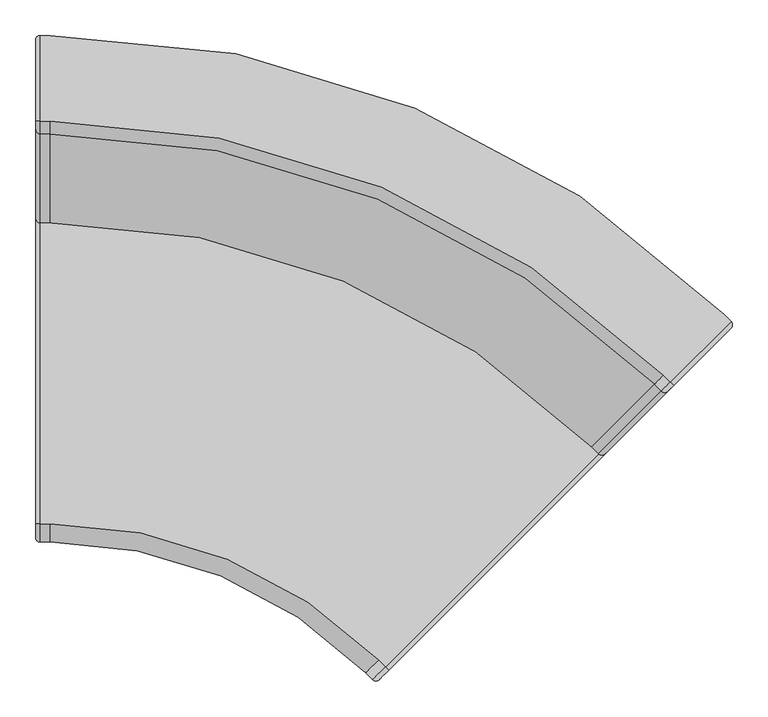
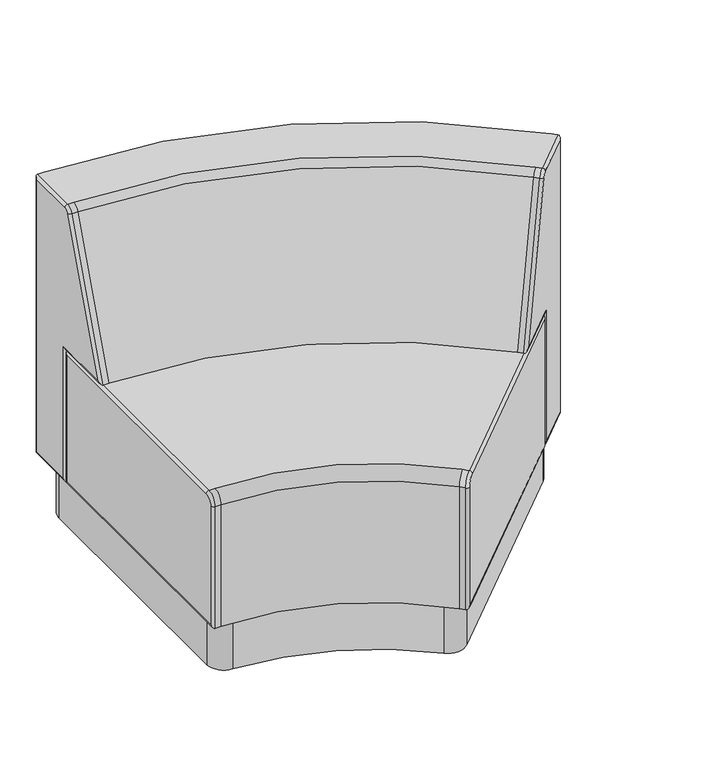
"""IFC4 building model written with IfcOpenShell, lengths in millimetres: furniture geometry, Stance_HC-Rosetta-45_Curve_Inside_Plinth_Base : RMB45-IN-BHP."""

from ifc_helpers import new_model, si_unit, point, frame, frame_2d, origin, origin_with_axes, place, context, project, spatial, polyline, circle_curve, ellipse_curve, trimmed, segment, composite_curve, outline, extrude, source, transform, mapped, element, save
from ifc_brep_helpers import plane_surface, cylinder_surface, revolved_surface, advanced_brep


def furniture_d77f1292(model_context):
    return source(origin(), model_context, "Body", "SolidModel", [
        extrude(outline(composite_curve([segment(trimmed(circle_curve(frame_2d((895.3141151, -406.5636273)), 39.6875), [point((922.4922983, -377.6422855))], [point((923.3774154, -434.6269277))], False, "CARTESIAN"), True, "CONTINUOUS"), segment(polyline([(923.3774154, -434.6269277), (504.8361601, -853.168183)]), True, "CONTINUOUS"), segment(trimmed(circle_curve(frame_2d((476.7728597, -825.1048826)), 39.6875), [point((504.8361601, -853.168183))], [point((450.3788925, -854.7436436))], False, "CARTESIAN"), True, "CONTINUOUS"), segment(trimmed(circle_curve(frame_2d((20.225, -1337.7793431)), 646.8043431), [point((450.3788925, -854.7436436))], [point((57.6180843, -692.0567901))], True, "CARTESIAN"), True, "CONTINUOUS"), segment(trimmed(circle_curve(frame_2d((59.9125, -652.435668)), 39.6875), [point((57.6180843, -692.0567901))], [point((20.225, -652.435668))], False, "CARTESIAN"), True, "CONTINUOUS"), segment(polyline([(20.225, -652.435668), (20.225, -60.5289483)]), True, "CONTINUOUS"), segment(trimmed(circle_curve(frame_2d((59.9125, -60.5289483)), 39.6875), [point((20.225, -60.5289483))], [point((61.1450992, -20.8605937))], False, "CARTESIAN"), True, "CONTINUOUS"), segment(trimmed(circle_curve(frame_2d((20.225, -1337.7793431)), 1317.5543431), [point((61.1450992, -20.8605937))], [point((922.4922983, -377.6422855))], False, "CARTESIAN"), True, "CONTINUOUS")], self_intersect=False)), frame((0.0, 0.0, 6.3627), z_axis=(0.0, 0.0, 1.0), x_axis=(1.0, 0.0, 0.0)), (0.0, 0.0, 1.0), 128.51892),
        advanced_brep(
        [(880.8654121, -477.138931, 457.2), (20.225, -120.65, 457.2), (6.35, -120.65, 457.2), (6.35, -685.7999758, 457.2), (20.225, -685.7999758, 457.2), (481.2440318, -876.7603113, 457.2), (491.0551384, -886.5714179, 457.2), (890.6765187, -486.9500376, 457.2), (880.8654121, -477.138931, 134.88162), (20.225, -120.65, 134.88162), (890.6765187, -486.9500376, 134.88162), (473.0946262, -904.5319301, 134.88162), (463.2835196, -894.7208235, 134.88162), (20.225, -711.1999758, 134.88162), (6.35, -711.1999758, 134.88162), (6.35, -120.65, 134.88162), (463.2835196, -894.7208235, 431.8), (20.225, -711.1999758, 431.8), (0.0, -127.0, 141.23162), (0.0, -127.0, 450.85), (0.0, -704.8499758, 141.23162), (6.35, -711.1999758, 431.8), (0.0, -704.8499758, 431.8), (0.0, -685.7999758, 450.85), (482.0748823, -904.5319301, 431.8), (495.5452665, -891.0615459, 450.85), (473.0946262, -904.5319301, 431.8), (482.0748823, -904.5319301, 141.23162), (890.6765187, -495.9302937, 141.23162), (890.6765187, -495.9302937, 450.85)],
        [
            (0, 1, circle_curve(frame((20.225, -1337.7793431, 457.2), z_axis=(0.0, 0.0, 1.0), x_axis=(0.0, 1.0, 0.0)), 1217.1293431)),
            (1, 2),
            (2, 3),
            (3, 4),
            (4, 5, circle_curve(frame((20.225, -1337.7793431, 457.2), z_axis=(0.0, 0.0, -1.0), x_axis=(0.0, 1.0, 0.0)), 651.9793673)),
            (5, 6),
            (6, 7),
            (7, 0),
            (0, 8),
            (8, 9, circle_curve(frame((20.225, -1337.7793431, 134.88162), z_axis=(0.0, 0.0, 1.0), x_axis=(0.0, 1.0, 0.0)), 1217.1293431)),
            (9, 1),
            (8, 10),
            (10, 11),
            (11, 12),
            (12, 13, circle_curve(frame((20.225, -1337.7793431, 134.88162), z_axis=(0.0, 0.0, 1.0), x_axis=(0.0, 1.0, 0.0)), 626.5793673)),
            (13, 14),
            (14, 15),
            (15, 9),
            (12, 16),
            (16, 17, circle_curve(frame((20.225, -1337.7793431, 431.8), z_axis=(0.0, 0.0, 1.0), x_axis=(0.0, 1.0, 0.0)), 626.5793673)),
            (17, 13),
            (4, 17, circle_curve(frame((20.225, -685.7999758, 431.8), z_axis=(1.0, 0.0, 0.0), x_axis=(0.0, 1.0, 0.0)), 25.4)),
            (16, 5, circle_curve(frame((481.2440318, -876.7603113, 431.8), z_axis=(-0.7071067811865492, 0.7071067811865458, 0.0), x_axis=(0.7071067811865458, 0.7071067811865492, 0.0)), 25.4)),
            (15, 2),
            (15, 18, ellipse_curve(frame((6.35, -127.0, 141.23162), z_axis=(0.0, 0.7071067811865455, 0.7071067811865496), x_axis=(0.0, -0.7071067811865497, 0.7071067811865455)), 8.9802561, 6.35)),
            (18, 19),
            (19, 2, ellipse_curve(frame((6.35, -127.0, 450.85), z_axis=(0.0, 0.7071067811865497, -0.7071067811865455), x_axis=(0.0, 0.7071067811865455, 0.7071067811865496)), 8.9802561, 6.35)),
            (14, 20, ellipse_curve(frame((6.35, -704.8499758, 141.23162), z_axis=(0.0, 0.7071067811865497, -0.7071067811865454), x_axis=(0.0, 0.7071067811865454, 0.7071067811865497)), 8.9802561, 6.35)),
            (20, 18),
            (17, 21),
            (21, 14),
            (21, 22, circle_curve(frame((6.35, -704.8499758, 431.8), z_axis=(0.0, 0.0, -1.0), x_axis=(0.0, -1.0, 0.0)), 6.35)),
            (22, 20),
            (3, 21, circle_curve(frame((6.35, -685.7999758, 431.8), z_axis=(1.0, 0.0, 0.0), x_axis=(0.0, -1.0, 0.0)), 25.4)),
            (3, 23, circle_curve(frame((6.35, -685.7999758, 450.85), z_axis=(0.0, -1.0, 0.0), x_axis=(0.0, 0.0, 1.0)), 6.35)),
            (23, 22, circle_curve(frame((0.0, -685.7999758, 431.8), z_axis=(1.0, 0.0, 0.0), x_axis=(0.0, -1.0, 0.0)), 19.05)),
            (19, 23),
            (24, 25, circle_curve(frame((495.5452665, -891.0615459, 431.8), z_axis=(-0.7071067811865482, 0.7071067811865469, 0.0), x_axis=(0.0, 0.0, 1.0)), 19.05)),
            (25, 6, circle_curve(frame((491.0551384, -886.5714179, 450.85), z_axis=(-0.7071067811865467, -0.7071067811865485, 0.0), x_axis=(0.0, 0.0, -1.0)), 6.35)),
            (6, 26, circle_curve(frame((491.0551384, -886.5714179, 431.8), z_axis=(0.7071067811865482, -0.7071067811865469, 0.0), x_axis=(0.0, 0.0, 1.0)), 25.4)),
            (26, 24, circle_curve(frame((477.5847542, -900.041802, 431.8), z_axis=(0.0, 0.0, 1.0), x_axis=(0.7071067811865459, 0.7071067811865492, 0.0)), 6.35)),
            (16, 26),
            (26, 11),
            (11, 27, ellipse_curve(frame((477.5847542, -900.041802, 141.23162), z_axis=(-0.5000000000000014, -0.5000000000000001, 0.7071067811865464), x_axis=(0.4999999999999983, 0.5000000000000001, 0.7071067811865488)), 8.9802561, 6.35)),
            (27, 24),
            (10, 28, ellipse_curve(frame((886.1863906, -491.4401657, 141.23162), z_axis=(-0.4999999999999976, -0.5000000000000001, -0.707106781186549), x_axis=(-0.5000000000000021, -0.5000000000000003, 0.7071067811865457)), 8.9802561, 6.35)),
            (28, 27),
            (10, 7),
            (7, 29, ellipse_curve(frame((886.1863906, -491.4401657, 450.85), z_axis=(0.5000000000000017, 0.5000000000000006, -0.707106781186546), x_axis=(-0.4999999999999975, -0.5000000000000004, -0.7071067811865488)), 8.9802561, 6.35)),
            (29, 28),
            (25, 29),
        ],
        [
            plane_surface(frame((20.225, -1337.7793431, 457.2), z_axis=(0.0, 0.0, 1.0), x_axis=(0.0, 1.0, 0.0))),
            cylinder_surface(frame((20.225, -1337.7793431, 618.9648354), z_axis=(0.0, 0.0, -1.0), x_axis=(0.0, 1.0, 0.0)), 1217.1293431),
            plane_surface(frame((20.225, -1337.7793431, 134.88162), z_axis=(0.0, 0.0, -1.0), x_axis=(0.0, 1.0, 0.0))),
            revolved_surface(polyline([(20.225, -711.1999758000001, 134.88162), (20.225, -711.1999758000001, 431.8)]), (20.225, -1337.7793431, 618.9648354), (0.0, 0.0, -1.0)),
            revolved_surface(trimmed(ellipse_curve(frame((20.225, -685.7999758, 431.8), z_axis=(-1.0, 0.0, 0.0), x_axis=(0.0, 1.0, 0.0)), 25.4, 25.4), [point((20.225, -711.1999758, 431.8))], [point((20.225, -685.7999758, 457.2))], True, "CARTESIAN"), (20.225, -1337.7793431, 618.9648354), (0.0, 0.0, -1.0)),
            plane_surface(frame((20.225, -120.65, 457.2), z_axis=(0.0, 1.0, 0.0), x_axis=(0.0, 0.0, -1.0))),
            cylinder_surface(frame((6.35, -127.0, 457.2), z_axis=(0.0, 0.0, 1.0), x_axis=(0.0, 1.0, 0.0)), 6.35),
            cylinder_surface(frame((6.35, -120.65, 141.23162), z_axis=(0.0, 1.0, 0.0), x_axis=(0.0, 0.0, -1.0)), 6.35),
            plane_surface(frame((20.225, -711.1999758, 134.88162), z_axis=(0.0, -1.0, 0.0), x_axis=(0.0, 0.0, 1.0))),
            cylinder_surface(frame((6.35, -704.8499758, 134.88162), z_axis=(0.0, 0.0, -1.0), x_axis=(0.0, -1.0, 0.0)), 6.35),
            cylinder_surface(frame((0.0, -685.7999758, 431.8), z_axis=(-1.0, 0.0, 0.0), x_axis=(0.0, -1.0, 0.0)), 25.4),
            revolved_surface(trimmed(ellipse_curve(frame((6.35, -704.8499758, 431.8), z_axis=(0.0, 0.0, -1.0), x_axis=(0.0, -1.0, 0.0)), 6.35, 6.35), [point((6.35, -711.1999758, 431.8))], [point((0.0, -704.8499758, 431.8))], True, "CARTESIAN"), (0.0, -685.7999758, 431.8), (-1.0, 0.0, 0.0)),
            cylinder_surface(frame((6.35, -685.7999758, 450.85), z_axis=(0.0, -1.0, 0.0), x_axis=(0.0, 0.0, 1.0)), 6.35),
            plane_surface(frame((0.0, -685.7999758, 450.85), z_axis=(-1.0, 0.0, 0.0), x_axis=(0.0, 1.0, 0.0))),
            revolved_surface(trimmed(ellipse_curve(frame((491.0551384, -886.5714179, 450.85), z_axis=(0.7071067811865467, 0.7071067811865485, 0.0), x_axis=(0.0, 0.0, -1.0)), 6.35, 6.35), [point((491.0551384, -886.5714179, 457.2))], [point((495.5452665, -891.0615459, 450.85))], True, "CARTESIAN"), (481.2440318, -876.7603113, 431.8), (0.7071067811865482, -0.7071067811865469, 0.0)),
            cylinder_surface(frame((481.2440318, -876.7603113, 431.8), z_axis=(0.7071067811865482, -0.7071067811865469, 0.0), x_axis=(0.0, 0.0, 1.0)), 25.4),
            cylinder_surface(frame((477.5847542, -900.041802, 431.8), z_axis=(0.0, 0.0, 1.0), x_axis=(0.7071067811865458, 0.7071067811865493, 0.0)), 6.35),
            plane_surface(frame((463.2835196, -894.7208235, 431.8), z_axis=(-0.7071067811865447, -0.7071067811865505, 0.0), x_axis=(0.0, 0.0, -1.0))),
            cylinder_surface(frame((473.0946262, -904.5319301, 141.23162), z_axis=(-0.7071067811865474, -0.7071067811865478, 0.0), x_axis=(0.0, 0.0, 1.0)), 6.35),
            cylinder_surface(frame((886.1863906, -491.4401657, 134.88162), z_axis=(0.0, 0.0, -1.0), x_axis=(-0.7071067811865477, -0.7071067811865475, 0.0)), 6.35),
            plane_surface(frame((880.8654121, -477.138931, 134.88162), z_axis=(0.7071067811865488, 0.7071067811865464, 0.0), x_axis=(0.0, 0.0, 1.0))),
            cylinder_surface(frame((890.6765187, -486.9500376, 450.85), z_axis=(0.7071067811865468, 0.7071067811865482, 0.0), x_axis=(0.0, 0.0, -1.0)), 6.35),
            plane_surface(frame((890.6765187, -495.9302937, 450.85), z_axis=(0.707106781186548, -0.707106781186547, 0.0), x_axis=(-0.707106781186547, -0.707106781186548, 0.0))),
        ],
        [
            (0, [[1, 2, 3, 4, 5, 6, 7, 8]]),
            (1, [[-1, 9, 10, 11]]),
            (2, [[-10, 12, 13, 14, 15, 16, 17, 18]]),
            (3, [[-15, 19, 20, 21]]),
            (4, [[-5, 22, -20, 23]]),
            (5, [[-2, -11, -18, 24]]),
            (6, [[-24, 25, 26, 27]]),
            (7, [[-25, -17, 28, 29]]),
            (8, [[-16, -21, 30, 31]]),
            (9, [[-28, -31, 32, 33]]),
            (10, [[-30, -22, -4, 34]]),
            (11, [[-32, -34, 35, 36]]),
            (12, [[-27, 37, -35, -3]]),
            (13, [[-26, -29, -33, -36, -37]]),
            (14, [[38, 39, 40, 41]]),
            (15, [[-40, -6, -23, 42]]),
            (16, [[-41, 43, 44, 45]]),
            (17, [[-42, -19, -14, -43]]),
            (18, [[-44, -13, 46, 47]]),
            (19, [[-46, 48, 49, 50]]),
            (20, [[-12, -9, -8, -48]]),
            (21, [[-39, 51, -49, -7]]),
            (22, [[-38, -45, -47, -50, -51]]),
        ],
    ),
        advanced_brep(
        [(966.1778452, -391.8264979, 812.8), (20.225, 0.0, 812.8), (6.35, 0.0, 812.8), (6.35, -120.3764333, 812.8), (20.225, -120.3764333, 812.8), (881.058853, -476.9454901, 812.8), (890.8699596, -486.7565967, 812.8), (975.9889518, -401.6376045, 812.8), (966.1778452, -391.8264979, 134.88162), (20.225, 0.0, 134.88162), (975.9889518, -401.6376045, 134.88162), (890.6765187, -486.9500376, 134.88162), (880.8654121, -477.138931, 134.88162), (20.225, -120.65, 134.88162), (6.35, -120.65, 134.88162), (6.35, 0.0, 134.88162), (880.8654121, -477.138931, 457.2), (20.225, -120.65, 457.2), (890.6765187, -486.9500376, 457.2), (789.9186091, -587.7079471, 457.2), (780.1075025, -577.8968406, 457.2), (20.225, -263.1432022, 457.2), (6.35, -263.1432022, 457.2), (6.35, -120.65, 457.2), (868.4008324, -489.6035108, 800.2654837), (20.225, -138.2775777, 800.2654837), (0.0, -6.35, 141.23162), (0.0, -6.35, 806.45), (0.0, -114.3, 141.23162), (0.0, -114.3, 463.55), (0.0, -254.0744624, 463.55), (6.35, -138.2775777, 800.2654837), (0.0, -132.3105296, 798.0936558), (0.0, -120.3764333, 806.45), (886.9214072, -499.6854052, 798.0936558), (895.3600876, -491.2467248, 806.45), (878.2119389, -499.4146173, 800.2654837), (800.8213046, -585.7855078, 463.55), (899.6567748, -486.9500376, 463.55), (899.6567748, -486.9500376, 141.23162), (975.9889518, -410.6178606, 141.23162), (975.9889518, -410.6178606, 806.45)],
        [
            (0, 1, circle_curve(frame((20.225, -1337.7793431, 812.8), z_axis=(0.0, 0.0, 1.0), x_axis=(0.0, 1.0, 0.0)), 1337.7793431)),
            (1, 2),
            (2, 3),
            (3, 4),
            (4, 5, circle_curve(frame((20.225, -1337.7793431, 812.8), z_axis=(0.0, 0.0, -1.0), x_axis=(0.0, 1.0, 0.0)), 1217.4029098)),
            (5, 6),
            (6, 7),
            (7, 0),
            (0, 8),
            (8, 9, circle_curve(frame((20.225, -1337.7793431, 134.88162), z_axis=(0.0, 0.0, 1.0), x_axis=(0.0, 1.0, 0.0)), 1337.7793431)),
            (9, 1),
            (8, 10),
            (10, 11),
            (11, 12),
            (12, 13, circle_curve(frame((20.225, -1337.7793431, 134.88162), z_axis=(0.0, 0.0, 1.0), x_axis=(0.0, 1.0, 0.0)), 1217.1293431)),
            (13, 14),
            (14, 15),
            (15, 9),
            (12, 16),
            (16, 17, circle_curve(frame((20.225, -1337.7793431, 457.2), z_axis=(0.0, 0.0, 1.0), x_axis=(0.0, 1.0, 0.0)), 1217.1293431)),
            (17, 13),
            (16, 18),
            (18, 19),
            (19, 20),
            (20, 21, circle_curve(frame((20.225, -1337.7793431, 457.2), z_axis=(0.0, 0.0, 1.0), x_axis=(0.0, 1.0, 0.0)), 1074.6361409)),
            (21, 22),
            (22, 23),
            (23, 17),
            (20, 24),
            (24, 25, circle_curve(frame((20.225, -1337.7793431, 800.2654837), z_axis=(0.0, 0.0, 1.0), x_axis=(0.0, 1.0, 0.0)), 1199.5017654)),
            (25, 21),
            (4, 25, circle_curve(frame((20.225, -120.3764333, 793.75), z_axis=(1.0, 0.0, 0.0), x_axis=(0.0, 1.0, 0.0)), 19.05)),
            (24, 5, circle_curve(frame((881.058853, -476.9454901, 793.75), z_axis=(-0.7071067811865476, 0.7071067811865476, 0.0), x_axis=(0.7071067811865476, 0.7071067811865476, 0.0)), 19.05)),
            (15, 2),
            (15, 26, ellipse_curve(frame((6.35, -6.35, 141.23162), z_axis=(0.0, 0.7071067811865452, 0.7071067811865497), x_axis=(0.0, -0.7071067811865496, 0.7071067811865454)), 8.9802561, 6.35)),
            (26, 27),
            (27, 2, ellipse_curve(frame((6.35, -6.35, 806.45), z_axis=(0.0, 0.7071067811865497, -0.7071067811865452), x_axis=(0.0, 0.7071067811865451, 0.7071067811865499)), 8.9802561, 6.35)),
            (14, 28, ellipse_curve(frame((6.35, -114.3, 141.23162), z_axis=(0.0, 0.7071067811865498, -0.7071067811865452), x_axis=(0.0, 0.7071067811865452, 0.7071067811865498)), 8.9802561, 6.35)),
            (28, 26),
            (23, 14),
            (23, 29, ellipse_curve(frame((6.35, -114.3, 463.55), z_axis=(0.0, 0.7071067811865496, -0.7071067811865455), x_axis=(0.0, -0.7071067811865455, -0.7071067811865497)), 8.9802561, 6.35)),
            (29, 28),
            (22, 30, ellipse_curve(frame((6.35, -254.0744624, 463.55), z_axis=(0.0, 0.5735764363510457, -0.8191520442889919), x_axis=(0.0, 0.8191520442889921, 0.5735764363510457)), 11.0708872, 6.35)),
            (30, 29),
            (25, 31),
            (31, 22),
            (31, 32, circle_curve(frame((6.35, -132.3105296, 798.0936558), z_axis=(0.0, -0.34202014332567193, -0.9396926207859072), x_axis=(0.0, -0.9396926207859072, 0.34202014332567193)), 6.35)),
            (32, 30),
            (3, 31, circle_curve(frame((6.35, -120.3764333, 793.75), z_axis=(1.0, 0.0, 0.0), x_axis=(0.0, -0.939692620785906, 0.34202014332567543)), 19.05)),
            (3, 33, circle_curve(frame((6.35, -120.3764333, 806.45), z_axis=(0.0, -1.0, 0.0), x_axis=(0.0, 0.0, 1.0)), 6.35)),
            (33, 32, circle_curve(frame((0.0, -120.3764333, 793.75), z_axis=(1.0, 0.0, 0.0), x_axis=(0.0, -0.939692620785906, 0.34202014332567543)), 12.7)),
            (27, 33),
            (34, 35, circle_curve(frame((895.3600876, -491.2467248, 793.75), z_axis=(-0.7071067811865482, 0.7071067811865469, 0.0), x_axis=(0.0, 0.0, 1.0)), 12.7)),
            (35, 6, circle_curve(frame((890.8699596, -486.7565967, 806.45), z_axis=(-0.7071067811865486, -0.7071067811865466, 0.0), x_axis=(0.0, 0.0, -1.0)), 6.35)),
            (6, 36, circle_curve(frame((890.8699596, -486.7565967, 793.75), z_axis=(0.7071067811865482, -0.7071067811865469, 0.0), x_axis=(0.0, 0.0, 1.0)), 19.05)),
            (36, 34, circle_curve(frame((882.4312791, -495.1952771, 798.0936558), z_axis=(0.24184476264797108, 0.2418447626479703, 0.9396926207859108), x_axis=(0.6644630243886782, 0.6644630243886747, -0.3420201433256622)), 6.35)),
            (24, 36),
            (36, 19),
            (19, 37, ellipse_curve(frame((796.3311766, -581.2953797, 463.55), z_axis=(-0.40557978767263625, -0.40557978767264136, 0.8191520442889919), x_axis=(0.5792279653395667, 0.5792279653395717, 0.5735764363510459)), 11.0708872, 6.35)),
            (37, 34),
            (18, 38, ellipse_curve(frame((895.1666467, -482.4599095, 463.55), z_axis=(-0.4999999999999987, -0.5000000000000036, 0.7071067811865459), x_axis=(-0.4999999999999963, -0.5000000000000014, -0.707106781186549)), 8.9802561, 6.35)),
            (38, 37),
            (18, 11),
            (11, 39, ellipse_curve(frame((895.1666467, -482.4599095, 141.23162), z_axis=(-0.5, -0.5000000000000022, 0.707106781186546), x_axis=(0.4999999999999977, 0.5000000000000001, 0.707106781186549)), 8.9802561, 6.35)),
            (39, 38),
            (10, 40, ellipse_curve(frame((971.4988238, -406.1277325, 141.23162), z_axis=(-0.4999999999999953, -0.5000000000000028, -0.7071067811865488), x_axis=(-0.5000000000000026, -0.4999999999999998, 0.7071067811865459)), 8.9802561, 6.35)),
            (40, 39),
            (10, 7),
            (7, 41, ellipse_curve(frame((971.4988238, -406.1277325, 806.45), z_axis=(0.5000000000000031, 0.49999999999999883, -0.7071067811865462), x_axis=(-0.49999999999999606, -0.500000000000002, -0.7071067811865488)), 8.9802561, 6.35)),
            (41, 40),
            (35, 41),
        ],
        [
            plane_surface(frame((20.225, -1337.7793431, 812.8), z_axis=(0.0, 0.0, 1.0), x_axis=(0.0, 1.0, 0.0))),
            cylinder_surface(frame((20.225, -1337.7793431, 618.9648354), z_axis=(0.0, 0.0, -1.0), x_axis=(0.0, 1.0, 0.0)), 1337.7793431),
            plane_surface(frame((20.225, -1337.7793431, 134.88162), z_axis=(0.0, 0.0, -1.0), x_axis=(0.0, 1.0, 0.0))),
            revolved_surface(polyline([(20.225, -120.65000000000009, 134.88162), (20.225, -120.65000000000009, 457.2)]), (20.225, -1337.7793431, 618.9648354), (0.0, 0.0, -1.0)),
            plane_surface(frame((20.225, -1337.7793431, 457.2), z_axis=(0.0, 0.0, -1.0), x_axis=(0.0, 1.0, 0.0))),
            revolved_surface(polyline([(20.225, -263.1432022, 457.2), (20.225, -138.2775777, 800.2654837)]), (20.225, -1337.7793431, 618.9648354), (0.0, 0.0, -1.0)),
            revolved_surface(trimmed(ellipse_curve(frame((20.225, -120.3764333, 793.75), z_axis=(-1.0, 0.0, 0.0), x_axis=(0.0, 1.0, 0.0)), 19.05, 19.05), [point((20.225, -138.2775777, 800.2654837))], [point((20.225, -120.3764333, 812.8))], True, "CARTESIAN"), (20.225, -1337.7793431, 618.9648354), (0.0, 0.0, -1.0)),
            plane_surface(frame((20.225, 0.0, 812.8), z_axis=(0.0, 1.0, 0.0), x_axis=(0.0, 0.0, -1.0))),
            cylinder_surface(frame((6.35, -6.35, 812.8), z_axis=(0.0, 0.0, 1.0), x_axis=(0.0, 1.0, 0.0)), 6.35),
            cylinder_surface(frame((6.35, 0.0, 141.23162), z_axis=(0.0, 1.0, 0.0), x_axis=(0.0, 0.0, -1.0)), 6.35),
            plane_surface(frame((20.225, -120.65, 134.88162), z_axis=(0.0, -1.0, 0.0), x_axis=(0.0, 0.0, 1.0))),
            cylinder_surface(frame((6.35, -114.3, 134.88162), z_axis=(0.0, 0.0, -1.0), x_axis=(0.0, -1.0, 0.0)), 6.35),
            cylinder_surface(frame((6.35, -120.65, 463.55), z_axis=(0.0, 1.0, 0.0), x_axis=(0.0, 0.0, -1.0)), 6.35),
            plane_surface(frame((20.225, -263.1432022, 457.2), z_axis=(0.0, -0.9396926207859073, 0.3420201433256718), x_axis=(0.0, 0.3420201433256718, 0.9396926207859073))),
            cylinder_surface(frame((6.35, -257.1761541, 455.0281721), z_axis=(0.0, -0.34202014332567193, -0.9396926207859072), x_axis=(0.0, -0.9396926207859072, 0.34202014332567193)), 6.35),
            cylinder_surface(frame((0.0, -120.3764333, 793.75), z_axis=(-1.0, 0.0, 0.0), x_axis=(0.0, -0.939692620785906, 0.34202014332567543)), 19.05),
            revolved_surface(trimmed(ellipse_curve(frame((6.35, -132.3105296, 798.0936558), z_axis=(0.0, -0.3420201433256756, -0.9396926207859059), x_axis=(0.0, -0.9396926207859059, 0.3420201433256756)), 6.35, 6.35), [point((6.35, -138.2775777, 800.2654837))], [point((0.0, -132.3105296, 798.0936558))], True, "CARTESIAN"), (0.0, -120.3764333, 793.75), (-1.0, 0.0, 0.0)),
            cylinder_surface(frame((6.35, -120.3764333, 806.45), z_axis=(0.0, -1.0, 0.0), x_axis=(0.0, 0.0, 1.0)), 6.35),
            plane_surface(frame((0.0, -120.3764333, 806.45), z_axis=(-1.0, 0.0, 0.0), x_axis=(0.0, 1.0, 0.0))),
            revolved_surface(trimmed(ellipse_curve(frame((890.8699596, -486.7565967, 806.45), z_axis=(0.7071067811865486, 0.7071067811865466, 0.0), x_axis=(0.0, 0.0, -1.0)), 6.35, 6.35), [point((890.8699596, -486.7565967, 812.8))], [point((895.3600876, -491.2467248, 806.45))], True, "CARTESIAN"), (881.058853, -476.9454901, 793.75), (0.7071067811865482, -0.7071067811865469, 0.0)),
            cylinder_surface(frame((881.058853, -476.9454901, 793.75), z_axis=(0.7071067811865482, -0.7071067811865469, 0.0), x_axis=(0.0, 0.0, 1.0)), 19.05),
            cylinder_surface(frame((882.4312791, -495.1952771, 798.0936558), z_axis=(0.24184476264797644, 0.24184476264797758, 0.9396926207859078), x_axis=(0.6644630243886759, 0.6644630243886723, -0.34202014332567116)), 6.35),
            plane_surface(frame((868.4008324, -489.6035108, 800.2654837), z_axis=(-0.6644630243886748, -0.6644630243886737, 0.3420201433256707), x_axis=(-0.24184476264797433, -0.24184476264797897, -0.9396926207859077))),
            cylinder_surface(frame((789.9186091, -587.7079471, 463.55), z_axis=(-0.7071067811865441, -0.7071067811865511, 0.0), x_axis=(0.0, 0.0, 1.0)), 6.35),
            cylinder_surface(frame((895.1666467, -482.4599095, 457.2), z_axis=(0.0, 0.0, 1.0), x_axis=(0.7071067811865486, 0.7071067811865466, 0.0)), 6.35),
            plane_surface(frame((880.8654121, -477.138931, 457.2), z_axis=(-0.7071067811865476, -0.7071067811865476, 0.0), x_axis=(0.0, 0.0, -1.0))),
            cylinder_surface(frame((890.6765187, -486.9500376, 141.23162), z_axis=(-0.7071067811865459, -0.7071067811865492, 0.0), x_axis=(0.0, 0.0, 1.0)), 6.35),
            cylinder_surface(frame((971.4988238, -406.1277325, 134.88162), z_axis=(0.0, 0.0, -1.0), x_axis=(-0.7071067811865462, -0.7071067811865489, 0.0)), 6.35),
            plane_surface(frame((966.1778452, -391.8264979, 134.88162), z_axis=(0.7071067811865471, 0.7071067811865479, 0.0), x_axis=(0.0, 0.0, 1.0))),
            cylinder_surface(frame((975.9889518, -401.6376045, 806.45), z_axis=(0.7071067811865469, 0.7071067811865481, 0.0), x_axis=(0.0, 0.0, -1.0)), 6.35),
            plane_surface(frame((975.9889518, -410.6178606, 806.45), z_axis=(0.7071067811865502, -0.7071067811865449, 0.0), x_axis=(-0.7071067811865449, -0.7071067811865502, 0.0))),
        ],
        [
            (0, [[1, 2, 3, 4, 5, 6, 7, 8]]),
            (1, [[-1, 9, 10, 11]]),
            (2, [[-10, 12, 13, 14, 15, 16, 17, 18]]),
            (3, [[-15, 19, 20, 21]]),
            (4, [[-20, 22, 23, 24, 25, 26, 27, 28]]),
            (5, [[-25, 29, 30, 31]]),
            (6, [[-5, 32, -30, 33]]),
            (7, [[-2, -11, -18, 34]]),
            (8, [[-34, 35, 36, 37]]),
            (9, [[-35, -17, 38, 39]]),
            (10, [[-16, -21, -28, 40]]),
            (11, [[-38, -40, 41, 42]]),
            (12, [[-41, -27, 43, 44]]),
            (13, [[-26, -31, 45, 46]]),
            (14, [[-43, -46, 47, 48]]),
            (15, [[-45, -32, -4, 49]]),
            (16, [[-47, -49, 50, 51]]),
            (17, [[-37, 52, -50, -3]]),
            (18, [[-36, -39, -42, -44, -48, -51, -52]]),
            (19, [[53, 54, 55, 56]]),
            (20, [[-55, -6, -33, 57]]),
            (21, [[-56, 58, 59, 60]]),
            (22, [[-57, -29, -24, -58]]),
            (23, [[-59, -23, 61, 62]]),
            (24, [[-61, 63, 64, 65]]),
            (25, [[-22, -19, -14, -63]]),
            (26, [[-64, -13, 66, 67]]),
            (27, [[-66, 68, 69, 70]]),
            (28, [[-12, -9, -8, -68]]),
            (29, [[-54, 71, -69, -7]]),
            (30, [[-53, -60, -62, -65, -67, -70, -71]]),
        ],
    ),
        extrude(outline(composite_curve([segment(trimmed(circle_curve(frame_2d((56.3119278, -53.0788193)), 11.90625), [point((56.3119278, -64.9850693))], [point((56.3119278, -41.1725693))], False, "CARTESIAN"), True, "CONTINUOUS"), segment(trimmed(circle_curve(frame_2d((56.3119278, -53.0788193)), 11.90625), [point((56.3119278, -41.1725693))], [point((56.3119278, -64.9850693))], False, "CARTESIAN"), True, "CONTINUOUS")], self_intersect=False)), origin_with_axes(), (0.0, 0.0, 1.0), 6.3627),
        extrude(outline(composite_curve([segment(trimmed(circle_curve(frame_2d((56.3119278, -658.1211807)), 11.90625), [point((56.3119278, -670.0274307))], [point((56.3119278, -646.2149307))], False, "CARTESIAN"), True, "CONTINUOUS"), segment(trimmed(circle_curve(frame_2d((56.3119278, -658.1211807)), 11.90625), [point((56.3119278, -646.2149307))], [point((56.3119278, -670.0274307))], False, "CARTESIAN"), True, "CONTINUOUS")], self_intersect=False)), origin_with_axes(), (0.0, 0.0, 1.0), 6.3627),
        extrude(outline(composite_curve([segment(trimmed(circle_curve(frame_2d((903.1281408, -403.8415796)), 11.90625), [point((903.1281408, -415.7478296))], [point((903.1281408, -391.9353296))], False, "CARTESIAN"), True, "CONTINUOUS"), segment(trimmed(circle_curve(frame_2d((903.1281408, -403.8415796)), 11.90625), [point((903.1281408, -391.9353296))], [point((903.1281408, -415.7478296))], False, "CARTESIAN"), True, "CONTINUOUS")], self_intersect=False)), origin_with_axes(), (0.0, 0.0, 1.0), 6.3627),
        extrude(outline(composite_curve([segment(trimmed(circle_curve(frame_2d((475.2985842, -831.6711362)), 11.90625), [point((475.2985842, -843.5773862))], [point((475.2985842, -819.7648862))], False, "CARTESIAN"), True, "CONTINUOUS"), segment(trimmed(circle_curve(frame_2d((475.2985842, -831.6711362)), 11.90625), [point((475.2985842, -819.7648862))], [point((475.2985842, -843.5773862))], False, "CARTESIAN"), True, "CONTINUOUS")], self_intersect=False)), origin_with_axes(), (0.0, 0.0, 1.0), 6.3627),
    ])


if __name__ == "__main__":
    model = new_model("IFC4")
    model_context = context("Model", 3, world=origin())
    ifc_project = project(units=[si_unit("LENGTHUNIT", "METRE", prefix="MILLI")], contexts=[model_context])
    site = spatial("IfcSite", under=ifc_project)
    building = spatial("IfcBuilding", under=site)
    placement = place(None, origin())
    furniture_shape = furniture_d77f1292(model_context)
    element("IfcFurniture", 1, ObjectType="Stance_HC-Rosetta-45_Curve_Inside_Plinth_Base : RMB45-IN-BHP", at=placement, inside=building, context=model_context, shape_type="MappedRepresentation", body=[
        mapped(furniture_shape, transform((0.0, 0.0, 0.0), x_axis=(1.0, 0.0, 0.0), y_axis=(0.0, 1.0, 0.0), z_axis=(0.0, 0.0, 1.0))),
    ])
    save(model, "model.ifc")
